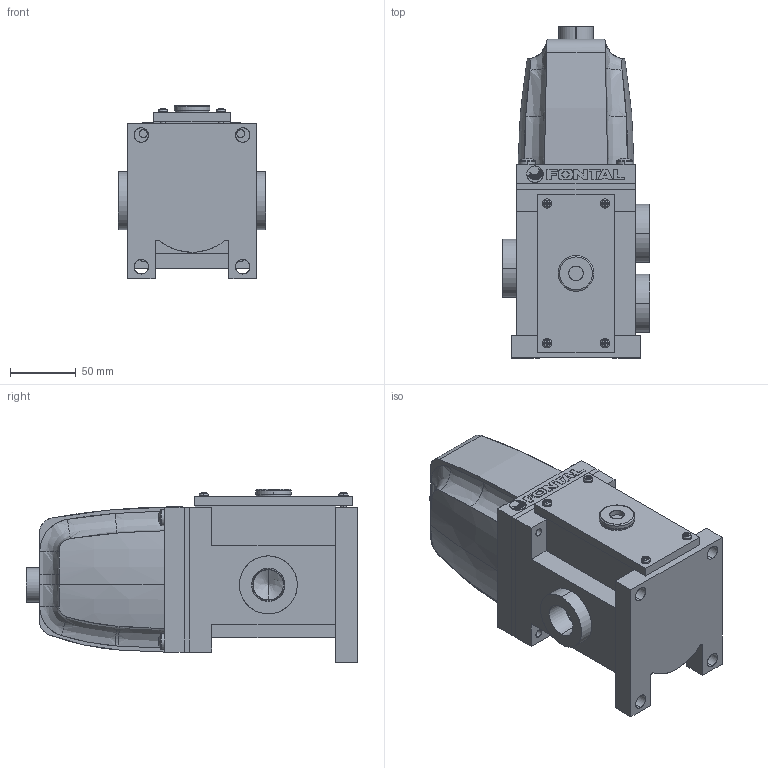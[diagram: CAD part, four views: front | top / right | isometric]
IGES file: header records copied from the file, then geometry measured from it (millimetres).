
Start section: SolidWorks IGES file using analytic representation for surfaces
Global section: file name: D:\Custom\3D繪製\A\A25\AS2325-06-##.IGS,1; native system: 5HSolidWorks 2014; preprocessor: SolidWorks 2014; author: Chieh_Lu; date: 151223.135347; units: millimetre
Bounding box: 112 x 251.9 x 131.5 mm (x, y, z)
Surface area: 188669.4 mm2 (no closed solid volume)
Topology: 0 solids, 0 shells, 539 faces, 6050 edges, 6028 vertices
Faces by surface type: bspline 340, revolution 199
